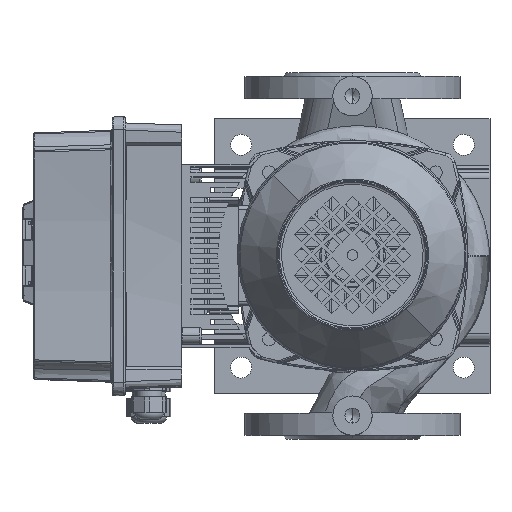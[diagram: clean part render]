
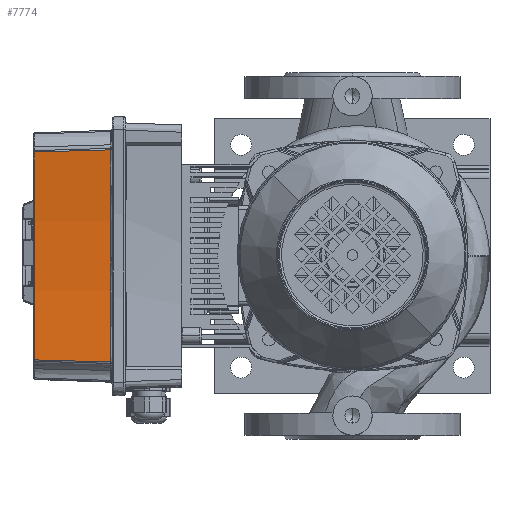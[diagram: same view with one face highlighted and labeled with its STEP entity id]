
A CAD part, top view. The second image highlights one B-rep face of the part: STEP entity #7774.
In plain terms, the highlighted conical face has half-angle 2 degrees and reference radius 845 mm.
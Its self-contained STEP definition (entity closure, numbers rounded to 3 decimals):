
#7774=ADVANCED_FACE('',(#15742),#15743,.F.);
#15742=FACE_OUTER_BOUND('',#36028,.T.);
#15743=CONICAL_SURFACE('',#36029,845.0,0.035);
#36028=EDGE_LOOP('',(#57503,#57504,#57505,#57506));
#36029=AXIS2_PLACEMENT_3D('',#57507,#57508,#57509);
#57503=ORIENTED_EDGE('',*,*,#92439,.F.);
#57504=ORIENTED_EDGE('',*,*,#92494,.F.);
#57505=ORIENTED_EDGE('',*,*,#92455,.F.);
#57506=ORIENTED_EDGE('',*,*,#92483,.F.);
#57507=CARTESIAN_POINT('',(-110.0,1132.065,60.0));
#57508=DIRECTION('',(0.,-0.0,-1.0));
#57509=DIRECTION('',(1.0,0.0,0.));
#92439=EDGE_CURVE('',#121191,#121197,#121198,.T.);
#92455=EDGE_CURVE('',#121218,#121210,#121220,.T.);
#92483=EDGE_CURVE('',#121197,#121218,#121250,.T.);
#92494=EDGE_CURVE('',#121210,#121191,#121262,.T.);
#121191=VERTEX_POINT('',#146759);
#121197=VERTEX_POINT('',#146801);
#121198=B_SPLINE_CURVE_WITH_KNOTS('',3,(#146802,#146803,#146804,#146805,#146806,#146807,#146808,#146809,#146810,#146811,#146812,#146813,#146814,#146815,#146816,#146817,#146818,#146819,#146820,#146821,#146822,#146823,#146824,#146825,#146826),.UNSPECIFIED.,.F.,.F.,(4,3,3,3,3,3,3,3,4),(-60.14,-51.629,-41.43,-35.057,-31.073,-27.089,-20.715,-10.517,-2.006),.UNSPECIFIED.);
#121210=VERTEX_POINT('',#146915);
#121218=VERTEX_POINT('',#146976);
#121220=B_SPLINE_CURVE_WITH_KNOTS('',3,(#146991,#146992,#146993,#146994,#146995,#146996,#146997,#146998,#146999,#147000,#147001,#147002,#147003,#147004,#147005,#147006,#147007,#147008,#147009,#147010,#147011,#147012,#147013,#147014,#147015),.UNSPECIFIED.,.F.,.F.,(4,3,3,3,3,3,3,3,4),(2.006,10.517,20.716,27.09,31.073,35.057,41.431,51.63,60.14),.UNSPECIFIED.);
#121250=CIRCLE('',#147206,847.062);
#121262=CIRCLE('',#147234,845.034);
#146759=CARTESIAN_POINT('',(-190.987,290.921,59.035));
#146801=CARTESIAN_POINT('',(-189.365,288.73,0.965));
#146802=CARTESIAN_POINT('',(-190.987,290.921,59.035));
#146803=CARTESIAN_POINT('',(-190.902,290.814,56.201));
#146804=CARTESIAN_POINT('',(-190.819,290.706,53.368));
#146805=CARTESIAN_POINT('',(-190.736,290.599,50.534));
#146806=CARTESIAN_POINT('',(-190.637,290.47,47.138));
#146807=CARTESIAN_POINT('',(-190.539,290.342,43.743));
#146808=CARTESIAN_POINT('',(-190.442,290.214,40.347));
#146809=CARTESIAN_POINT('',(-190.381,290.133,38.225));
#146810=CARTESIAN_POINT('',(-190.321,290.053,36.103));
#146811=CARTESIAN_POINT('',(-190.261,289.973,33.98));
#146812=CARTESIAN_POINT('',(-190.224,289.923,32.654));
#146813=CARTESIAN_POINT('',(-190.187,289.873,31.327));
#146814=CARTESIAN_POINT('',(-190.15,289.823,30.001));
#146815=CARTESIAN_POINT('',(-190.113,289.773,28.675));
#146816=CARTESIAN_POINT('',(-190.076,289.723,27.348));
#146817=CARTESIAN_POINT('',(-190.04,289.673,26.022));
#146818=CARTESIAN_POINT('',(-189.981,289.593,23.899));
#146819=CARTESIAN_POINT('',(-189.923,289.513,21.777));
#146820=CARTESIAN_POINT('',(-189.865,289.433,19.655));
#146821=CARTESIAN_POINT('',(-189.772,289.305,16.259));
#146822=CARTESIAN_POINT('',(-189.681,289.177,12.863));
#146823=CARTESIAN_POINT('',(-189.59,289.049,9.467));
#146824=CARTESIAN_POINT('',(-189.515,288.943,6.633));
#146825=CARTESIAN_POINT('',(-189.44,288.836,3.799));
#146826=CARTESIAN_POINT('',(-189.365,288.73,0.965));
#146915=CARTESIAN_POINT('',(-29.013,290.921,59.035));
#146976=CARTESIAN_POINT('',(-30.635,288.73,0.965));
#146991=CARTESIAN_POINT('',(-30.635,288.73,0.965));
#146992=CARTESIAN_POINT('',(-30.56,288.836,3.799));
#146993=CARTESIAN_POINT('',(-30.485,288.943,6.633));
#146994=CARTESIAN_POINT('',(-30.41,289.049,9.467));
#146995=CARTESIAN_POINT('',(-30.319,289.177,12.863));
#146996=CARTESIAN_POINT('',(-30.228,289.305,16.259));
#146997=CARTESIAN_POINT('',(-30.135,289.433,19.654));
#146998=CARTESIAN_POINT('',(-30.077,289.513,21.777));
#146999=CARTESIAN_POINT('',(-30.019,289.593,23.899));
#147000=CARTESIAN_POINT('',(-29.96,289.673,26.022));
#147001=CARTESIAN_POINT('',(-29.924,289.723,27.348));
#147002=CARTESIAN_POINT('',(-29.887,289.773,28.674));
#147003=CARTESIAN_POINT('',(-29.85,289.823,30.001));
#147004=CARTESIAN_POINT('',(-29.813,289.873,31.327));
#147005=CARTESIAN_POINT('',(-29.776,289.923,32.654));
#147006=CARTESIAN_POINT('',(-29.739,289.973,33.98));
#147007=CARTESIAN_POINT('',(-29.679,290.053,36.103));
#147008=CARTESIAN_POINT('',(-29.619,290.133,38.225));
#147009=CARTESIAN_POINT('',(-29.558,290.214,40.347));
#147010=CARTESIAN_POINT('',(-29.461,290.342,43.743));
#147011=CARTESIAN_POINT('',(-29.363,290.47,47.139));
#147012=CARTESIAN_POINT('',(-29.264,290.599,50.534));
#147013=CARTESIAN_POINT('',(-29.181,290.706,53.368));
#147014=CARTESIAN_POINT('',(-29.098,290.814,56.201));
#147015=CARTESIAN_POINT('',(-29.013,290.921,59.035));
#147206=AXIS2_PLACEMENT_3D('',#176902,#176903,#176904);
#147234=AXIS2_PLACEMENT_3D('',#176914,#176915,#176916);
#176902=CARTESIAN_POINT('',(-110.0,1132.065,0.965));
#176903=DIRECTION('',(0.,0.,1.0));
#176904=DIRECTION('',(0.0,-1.0,0.));
#176914=CARTESIAN_POINT('',(-110.0,1132.065,59.035));
#176915=DIRECTION('',(-0.0,-0.0,-1.0));
#176916=DIRECTION('',(0.0,-1.0,0.0));
